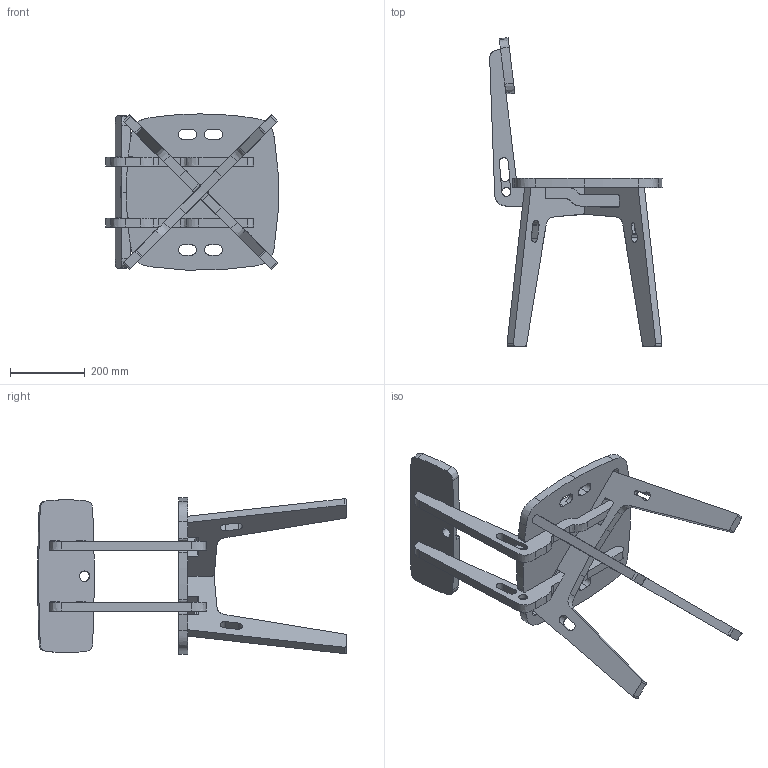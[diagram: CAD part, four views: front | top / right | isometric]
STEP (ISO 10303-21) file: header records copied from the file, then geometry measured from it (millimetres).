
FILE_DESCRIPTION (( 'STEP AP214' ), '1' );
FILE_NAME ('Chair MPB v04.STEP', '2019-05-10T20:22:38', ( '' ), ( '' ), 'SwSTEP 2.0', 'SolidWorks 2018', '' );
FILE_SCHEMA (( 'AUTOMOTIVE_DESIGN' ));
Length unit declared in the file: millimetre
Products named in the file (2): Chair MPB v04
Bounding box: 463.02 x 827.96 x 419.12 mm (x, y, z)
Volume: 9681524.7 mm3; surface area: 1185376.6 mm2
Topology: 6 solids, 6 shells, 383 faces, 1130 edges, 754 vertices
Faces by surface type: plane 170, cylinder 126, bspline 87
Entity records: 22634 total; most frequent: CARTESIAN_POINT 12786, ORIENTED_EDGE 2260, DIRECTION 1642, EDGE_CURVE 1130, VERTEX_POINT 754, AXIS2_PLACEMENT_3D 558, LINE 526, VECTOR 526
